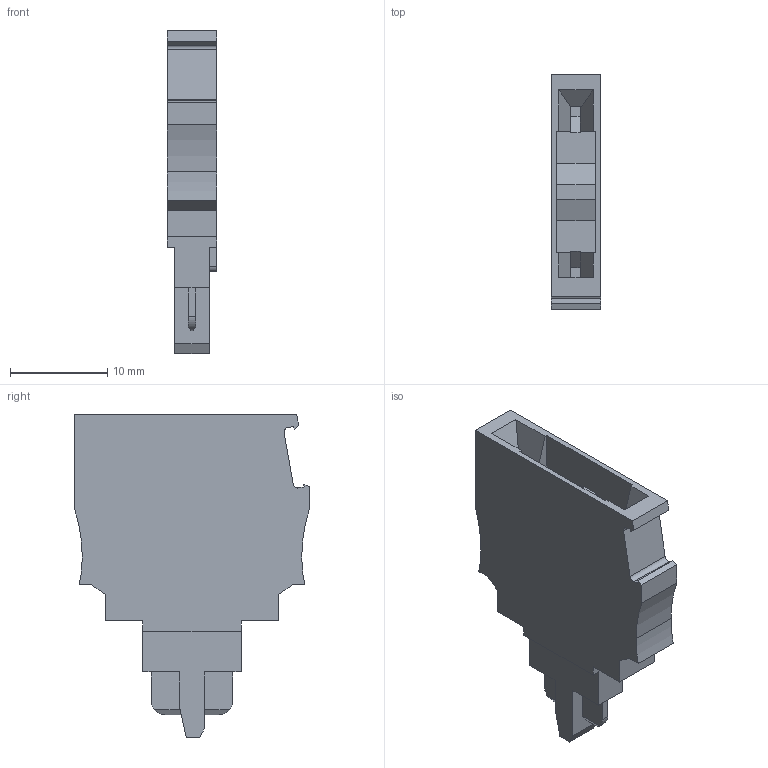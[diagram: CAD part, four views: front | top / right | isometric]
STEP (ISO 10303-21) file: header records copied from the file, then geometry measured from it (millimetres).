
FILE_DESCRIPTION(('TFLEX Exchange Step'),'2;1');
FILE_NAME('X2\0420\X0\-КН.stp', '2024-06-14T14:29:43+03:00',('apanin'),('Unknown organisation'),'TFLEX Exchange 2023.2','T-FLEX CAD','Unknown authorisation');
FILE_SCHEMA( ('AUTOMOTIVE_DESIGN { 1 0 10303 214 1 1 1 1 }') );
Length unit declared in the file: millimetre
Products named in the file (1): Тело_1 - P-CO-select:1
Bounding box: 5.1 x 24.2 x 33.25 mm (x, y, z)
Volume: 2361.7 mm3; surface area: 1956.8 mm2
Topology: 1 solids, 1 shells, 307 faces, 888 edges, 591 vertices
Faces by surface type: cylinder 170, plane 137
Entity records: 10261 total; most frequent: DIRECTION 1840, CARTESIAN_POINT 1795, ORIENTED_EDGE 1776, EDGE_CURVE 888, AXIS2_PLACEMENT_3D 648, VERTEX_POINT 591, VECTOR 544, LINE 544
